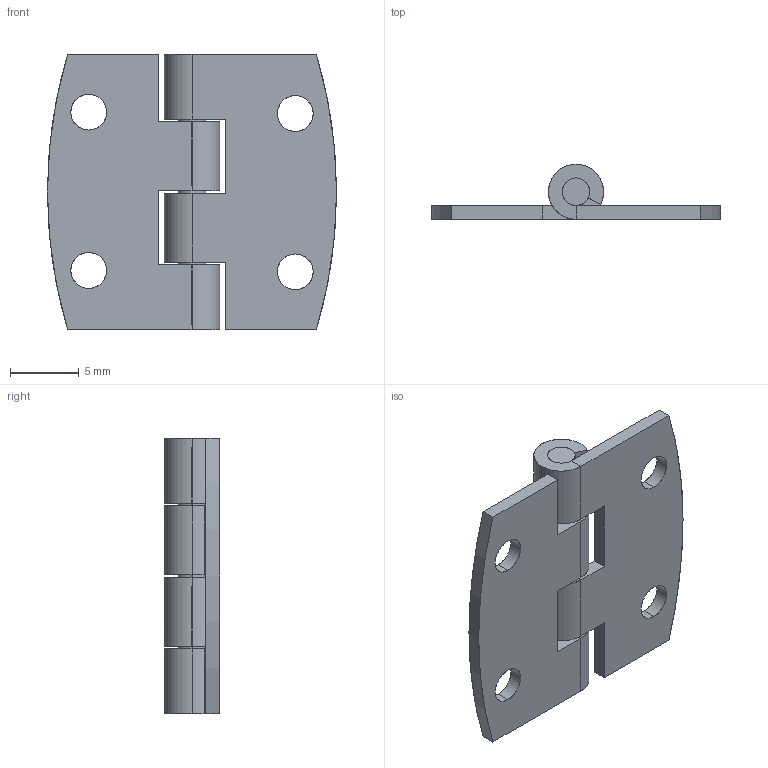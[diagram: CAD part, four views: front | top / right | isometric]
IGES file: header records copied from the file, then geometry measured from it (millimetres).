
Start section: SolidWorks IGES file using analytic representation for surfaces
Global section: file name: C:\Users\cbrechard\Desktop\CC 444.IGS; native system: SolidWorks 2017; preprocessor: SolidWorks 2017; author: cbrechard; date: 191014.100548; units: millimetre
Bounding box: 21 x 4 x 20 mm (x, y, z)
Surface area: 1314.6 mm2 (no closed solid volume)
Topology: 0 solids, 0 shells, 68 faces, 1020 edges, 1020 vertices
Faces by surface type: revolution 36, bspline 32
